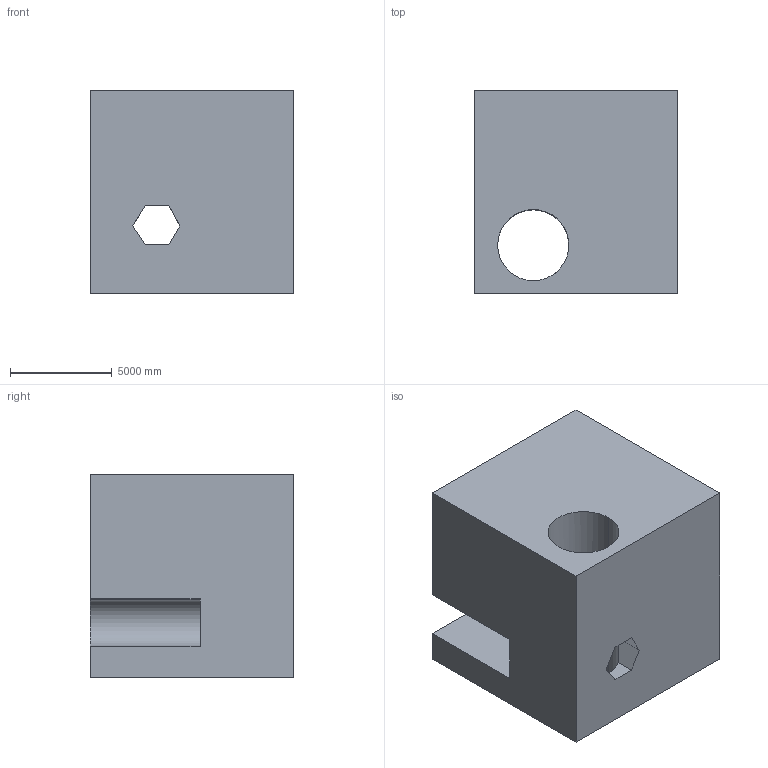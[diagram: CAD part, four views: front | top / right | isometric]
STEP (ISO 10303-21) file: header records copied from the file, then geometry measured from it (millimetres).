
FILE_DESCRIPTION (( 'STEP AP203' ), '1' );
FILE_NAME ('248.STEP', '2022-07-28T14:05:42', ( 'user' ), ( '' ), 'SwSTEP 2.0', 'SolidWorks 2021', '' );
FILE_SCHEMA (( 'CONFIG_CONTROL_DESIGN' ));
Length unit declared in the file: centimetre
Products named in the file (1): 248
Bounding box: 10000 x 10000 x 10000 mm (x, y, z)
Volume: 834565264534.6 mm3; surface area: 739700398 mm2
Topology: 1 solids, 1 shells, 24 faces, 69 edges, 46 vertices
Faces by surface type: plane 21, cylinder 3
Entity records: 872 total; most frequent: CARTESIAN_POINT 164, ORIENTED_EDGE 138, DIRECTION 121, EDGE_CURVE 69, VECTOR 51, LINE 51, VERTEX_POINT 46, AXIS2_PLACEMENT_3D 35
